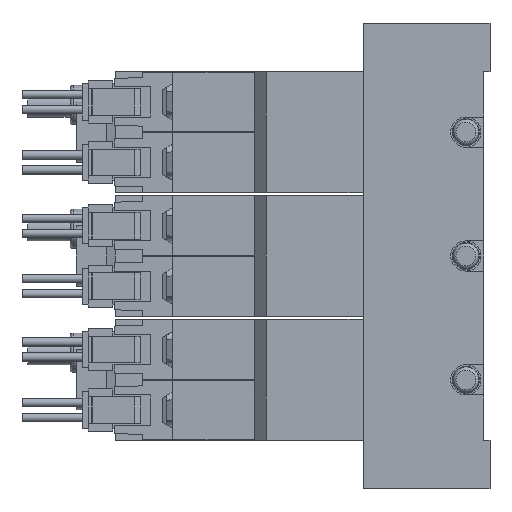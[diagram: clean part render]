
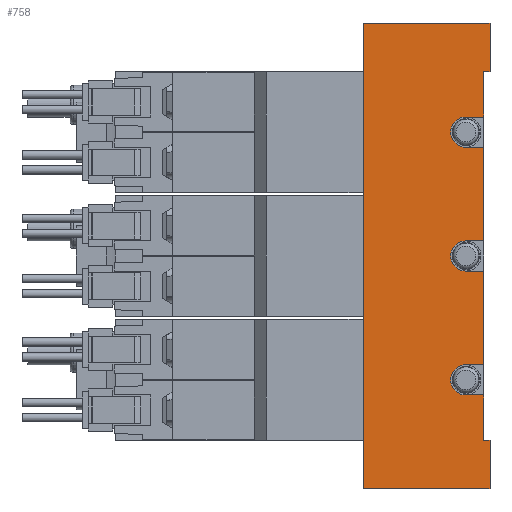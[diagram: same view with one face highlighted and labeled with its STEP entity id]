
A CAD part, left-side view. The second image highlights one B-rep face of the part: STEP entity #758.
In plain terms, the highlighted planar face has unit normal (-1, 0, 0) as drawn and (1, 0, 0) by its records, which use the part's own axes.
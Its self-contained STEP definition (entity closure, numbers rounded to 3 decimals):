
#758=ADVANCED_FACE('',(#1607),#1608,.F.);
#1607=FACE_OUTER_BOUND('',#2535,.T.);
#1608=PLANE('',#2536);
#2535=EDGE_LOOP('',(#5561,#5562,#5563,#5564,#5565,#5566,#5567,#5568,#5569,#5570,#5571,#5572,#5573,#5574,#5575,#5576,#5577,#5578,#5579,#5580));
#2536=AXIS2_PLACEMENT_3D('',#5581,#5582,#5583);
#5561=ORIENTED_EDGE('',*,*,#6817,.T.);
#5562=ORIENTED_EDGE('',*,*,#6818,.T.);
#5563=ORIENTED_EDGE('',*,*,#6768,.F.);
#5564=ORIENTED_EDGE('',*,*,#6819,.F.);
#5565=ORIENTED_EDGE('',*,*,#6772,.T.);
#5566=ORIENTED_EDGE('',*,*,#6779,.T.);
#5567=ORIENTED_EDGE('',*,*,#6820,.T.);
#5568=ORIENTED_EDGE('',*,*,#6821,.F.);
#5569=ORIENTED_EDGE('',*,*,#6822,.F.);
#5570=ORIENTED_EDGE('',*,*,#6747,.F.);
#5571=ORIENTED_EDGE('',*,*,#6823,.T.);
#5572=ORIENTED_EDGE('',*,*,#6824,.F.);
#5573=ORIENTED_EDGE('',*,*,#6825,.F.);
#5574=ORIENTED_EDGE('',*,*,#6813,.F.);
#5575=ORIENTED_EDGE('',*,*,#6826,.T.);
#5576=ORIENTED_EDGE('',*,*,#6827,.F.);
#5577=ORIENTED_EDGE('',*,*,#6828,.F.);
#5578=ORIENTED_EDGE('',*,*,#6829,.F.);
#5579=ORIENTED_EDGE('',*,*,#6830,.T.);
#5580=ORIENTED_EDGE('',*,*,#6831,.T.);
#5581=CARTESIAN_POINT('',(17.5,1.0,38.5));
#5582=DIRECTION('',(-1.0,0.0,0.0));
#5583=DIRECTION('',(0.0,0.0,1.0));
#6747=EDGE_CURVE('',#8339,#8340,#8341,.T.);
#6768=EDGE_CURVE('',#8379,#8374,#8381,.T.);
#6772=EDGE_CURVE('',#8388,#8389,#8390,.T.);
#6779=EDGE_CURVE('',#8389,#8400,#8403,.T.);
#6813=EDGE_CURVE('',#8463,#8464,#8465,.T.);
#6817=EDGE_CURVE('',#8470,#8471,#8472,.T.);
#6818=EDGE_CURVE('',#8471,#8374,#8473,.T.);
#6819=EDGE_CURVE('',#8388,#8379,#8474,.T.);
#6820=EDGE_CURVE('',#8400,#8475,#8476,.T.);
#6821=EDGE_CURVE('',#8477,#8475,#8478,.T.);
#6822=EDGE_CURVE('',#8340,#8477,#8479,.T.);
#6823=EDGE_CURVE('',#8339,#8480,#8481,.T.);
#6824=EDGE_CURVE('',#8482,#8480,#8483,.T.);
#6825=EDGE_CURVE('',#8464,#8482,#8484,.T.);
#6826=EDGE_CURVE('',#8463,#8485,#8486,.T.);
#6827=EDGE_CURVE('',#8487,#8485,#8488,.T.);
#6828=EDGE_CURVE('',#8489,#8487,#8490,.T.);
#6829=EDGE_CURVE('',#8491,#8489,#8492,.T.);
#6830=EDGE_CURVE('',#8491,#8493,#8494,.T.);
#6831=EDGE_CURVE('',#8493,#8470,#8495,.T.);
#8339=VERTEX_POINT('',#10915);
#8340=VERTEX_POINT('',#10916);
#8341=LINE('',#10917,#10918);
#8374=VERTEX_POINT('',#10962);
#8379=VERTEX_POINT('',#10969);
#8381=LINE('',#10972,#10973);
#8388=VERTEX_POINT('',#10980);
#8389=VERTEX_POINT('',#10981);
#8390=LINE('',#10982,#10983);
#8400=VERTEX_POINT('',#10996);
#8403=LINE('',#11000,#11001);
#8463=VERTEX_POINT('',#11164);
#8464=VERTEX_POINT('',#11165);
#8465=LINE('',#11166,#11167);
#8470=VERTEX_POINT('',#11175);
#8471=VERTEX_POINT('',#11176);
#8472=LINE('',#11177,#11178);
#8473=LINE('',#11179,#11180);
#8474=LINE('',#11181,#11182);
#8475=VERTEX_POINT('',#11183);
#8476=LINE('',#11184,#11185);
#8477=VERTEX_POINT('',#11186);
#8478=LINE('',#11187,#11188);
#8479=CIRCLE('',#11189,2.5);
#8480=VERTEX_POINT('',#11190);
#8481=LINE('',#11191,#11192);
#8482=VERTEX_POINT('',#11193);
#8483=LINE('',#11194,#11195);
#8484=CIRCLE('',#11196,2.5);
#8485=VERTEX_POINT('',#11197);
#8486=LINE('',#11198,#11199);
#8487=VERTEX_POINT('',#11200);
#8488=LINE('',#11201,#11202);
#8489=VERTEX_POINT('',#11203);
#8490=CIRCLE('',#11204,2.5);
#8491=VERTEX_POINT('',#11205);
#8492=LINE('',#11206,#11207);
#8493=VERTEX_POINT('',#11208);
#8494=LINE('',#11209,#11210);
#8495=LINE('',#11211,#11212);
#10915=CARTESIAN_POINT('',(17.5,1.0,18.0));
#10916=CARTESIAN_POINT('',(17.5,4.0,18.0));
#10917=CARTESIAN_POINT('',(17.5,1.0,18.0));
#10918=VECTOR('',#12390,1.0);
#10962=CARTESIAN_POINT('',(17.5,21.0,-38.5));
#10969=CARTESIAN_POINT('',(17.5,21.0,38.5));
#10972=CARTESIAN_POINT('',(17.5,21.0,38.5));
#10973=VECTOR('',#12423,1.0);
#10980=CARTESIAN_POINT('',(17.5,0.0,38.5));
#10981=CARTESIAN_POINT('',(17.5,0.0,30.5));
#10982=CARTESIAN_POINT('',(17.5,0.0,38.5));
#10983=VECTOR('',#12433,1.0);
#10996=CARTESIAN_POINT('',(17.5,1.0,30.5));
#11000=CARTESIAN_POINT('',(17.5,0.0,30.5));
#11001=VECTOR('',#12444,1.0);
#11164=CARTESIAN_POINT('',(17.5,1.0,-2.5));
#11165=CARTESIAN_POINT('',(17.5,4.0,-2.5));
#11166=CARTESIAN_POINT('',(17.5,1.0,-2.5));
#11167=VECTOR('',#12505,1.0);
#11175=CARTESIAN_POINT('',(17.5,0.0,-30.5));
#11176=CARTESIAN_POINT('',(17.5,0.0,-38.5));
#11177=CARTESIAN_POINT('',(17.5,0.0,-30.5));
#11178=VECTOR('',#12509,1.0);
#11179=CARTESIAN_POINT('',(17.5,1.0,-38.5));
#11180=VECTOR('',#12510,1.0);
#11181=CARTESIAN_POINT('',(17.5,1.0,38.5));
#11182=VECTOR('',#12511,1.0);
#11183=CARTESIAN_POINT('',(17.5,1.0,23.0));
#11184=CARTESIAN_POINT('',(17.5,1.0,38.5));
#11185=VECTOR('',#12512,1.0);
#11186=CARTESIAN_POINT('',(17.5,4.0,23.0));
#11187=CARTESIAN_POINT('',(17.5,1.0,23.0));
#11188=VECTOR('',#12513,1.0);
#11189=AXIS2_PLACEMENT_3D('',#12514,#12515,#12516);
#11190=CARTESIAN_POINT('',(17.5,1.0,2.5));
#11191=CARTESIAN_POINT('',(17.5,1.0,38.5));
#11192=VECTOR('',#12517,1.0);
#11193=CARTESIAN_POINT('',(17.5,4.0,2.5));
#11194=CARTESIAN_POINT('',(17.5,1.0,2.5));
#11195=VECTOR('',#12518,1.0);
#11196=AXIS2_PLACEMENT_3D('',#12519,#12520,#12521);
#11197=CARTESIAN_POINT('',(17.5,1.0,-18.0));
#11198=CARTESIAN_POINT('',(17.5,1.0,38.5));
#11199=VECTOR('',#12522,1.0);
#11200=CARTESIAN_POINT('',(17.5,4.0,-18.0));
#11201=CARTESIAN_POINT('',(17.5,1.0,-18.0));
#11202=VECTOR('',#12523,1.0);
#11203=CARTESIAN_POINT('',(17.5,4.0,-23.0));
#11204=AXIS2_PLACEMENT_3D('',#12524,#12525,#12526);
#11205=CARTESIAN_POINT('',(17.5,1.0,-23.0));
#11206=CARTESIAN_POINT('',(17.5,1.0,-23.0));
#11207=VECTOR('',#12527,1.0);
#11208=CARTESIAN_POINT('',(17.5,1.0,-30.5));
#11209=CARTESIAN_POINT('',(17.5,1.0,38.5));
#11210=VECTOR('',#12528,1.0);
#11211=CARTESIAN_POINT('',(17.5,4.0,-30.5));
#11212=VECTOR('',#12529,1.0);
#12390=DIRECTION('',(0.0,1.0,0.0));
#12423=DIRECTION('',(0.0,0.0,-1.0));
#12433=DIRECTION('',(0.0,0.0,-1.0));
#12444=DIRECTION('',(0.0,1.0,0.0));
#12505=DIRECTION('',(0.0,1.0,0.0));
#12509=DIRECTION('',(0.0,0.0,-1.0));
#12510=DIRECTION('',(0.0,1.0,0.0));
#12511=DIRECTION('',(0.0,1.0,0.0));
#12512=DIRECTION('',(0.0,0.0,-1.0));
#12513=DIRECTION('',(0.0,-1.0,0.0));
#12514=CARTESIAN_POINT('',(17.5,4.0,20.5));
#12515=DIRECTION('',(1.0,0.0,-0.0));
#12516=DIRECTION('',(0.0,0.0,1.0));
#12517=DIRECTION('',(0.0,0.0,-1.0));
#12518=DIRECTION('',(0.0,-1.0,0.0));
#12519=CARTESIAN_POINT('',(17.5,4.0,0.0));
#12520=DIRECTION('',(1.0,0.0,-0.0));
#12521=DIRECTION('',(0.0,0.0,1.0));
#12522=DIRECTION('',(0.0,0.0,-1.0));
#12523=DIRECTION('',(0.0,-1.0,0.0));
#12524=CARTESIAN_POINT('',(17.5,4.0,-20.5));
#12525=DIRECTION('',(1.0,0.0,-0.0));
#12526=DIRECTION('',(0.0,0.0,1.0));
#12527=DIRECTION('',(0.0,1.0,0.0));
#12528=DIRECTION('',(0.0,0.0,-1.0));
#12529=DIRECTION('',(0.0,-1.0,0.0));
